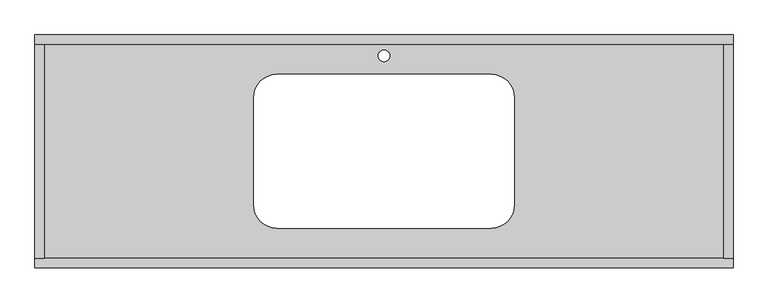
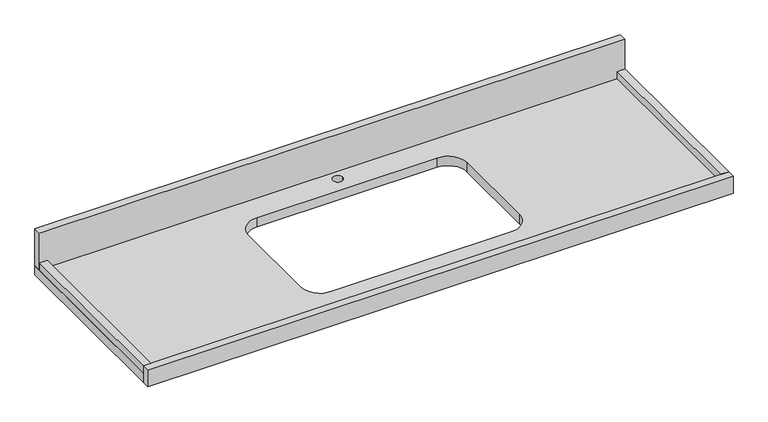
"""IFC4 building model written with IfcOpenShell, lengths in millimetres: furniture geometry, F05943_ES_Encimera-Cocina.2019 : Blanco Siena."""

from ifc_helpers import new_model, si_unit, point, frame, frame_2d, origin, place, context, project, spatial, polyline, circle_curve, trimmed, segment, composite_curve, outline, extrude, source, transform, mapped, element, save


def furniture_18eae17e(model_context):
    return source(origin(), model_context, "Body", "SweptSolid", [
        extrude(outline(polyline([(-750.0, 300.0), (750.0, 300.0), (750.0, -180.0), (-750.0, -180.0), (-750.0, 300.0)]), holes=[composite_curve([segment(polyline([(-230.0, -115.0), (230.0, -115.0)]), True, "CONTINUOUS"), segment(trimmed(circle_curve(frame_2d((230.0, -65.0)), 50.0), [point((230.0, -115.0))], [point((280.0, -65.0))], True, "CARTESIAN"), True, "CONTINUOUS"), segment(polyline([(280.0, -65.0), (280.0, 165.0)]), True, "CONTINUOUS"), segment(trimmed(circle_curve(frame_2d((230.0, 165.0)), 50.0), [point((280.0, 165.0))], [point((230.0, 215.0))], True, "CARTESIAN"), True, "CONTINUOUS"), segment(polyline([(230.0, 215.0), (-230.0, 215.0)]), True, "CONTINUOUS"), segment(trimmed(circle_curve(frame_2d((-230.0, 165.0)), 50.0), [point((-230.0, 215.0))], [point((-280.0, 165.0))], True, "CARTESIAN"), True, "CONTINUOUS"), segment(polyline([(-280.0, 165.0), (-280.0, -65.0)]), True, "CONTINUOUS"), segment(trimmed(circle_curve(frame_2d((-230.0, -65.0)), 50.0), [point((-280.0, -65.0))], [point((-230.0, -115.0))], True, "CARTESIAN"), True, "CONTINUOUS")], self_intersect=False), composite_curve([segment(trimmed(circle_curve(frame_2d((0.0, 255.0)), 12.5), [point((-12.5, 255.0))], [point((12.5, 255.0))], True, "CARTESIAN"), True, "CONTINUOUS"), segment(trimmed(circle_curve(frame_2d((0.0, 255.0)), 12.5), [point((12.5, 255.0))], [point((-12.5, 255.0))], True, "CARTESIAN"), True, "CONTINUOUS")], self_intersect=False)]), frame((0.0, 0.0, 775.0), z_axis=(0.0, 0.0, 1.0), x_axis=(1.0, 0.0, 0.0)), (0.0, 0.0, 1.0), 25.0),
        extrude(outline(polyline([(750.0, 300.0), (750.0, 280.0), (-750.0, 280.0), (-750.0, 300.0), (750.0, 300.0)])), frame((0.0, 0.0, 800.0), z_axis=(0.0, 0.0, 1.0), x_axis=(1.0, 0.0, 0.0)), (0.0, 0.0, 1.0), 100.0),
        extrude(outline(polyline([(-750.0, 280.0), (-730.0, 280.0), (-730.0, -180.0), (-750.0, -180.0), (-750.0, 280.0)])), frame((0.0, 0.0, 800.0), z_axis=(0.0, 0.0, 1.0), x_axis=(1.0, 0.0, 0.0)), (0.0, 0.0, 1.0), 20.0),
        extrude(outline(polyline([(750.0, 280.0), (750.0, -180.0), (730.0, -180.0), (730.0, 280.0), (750.0, 280.0)])), frame((0.0, 0.0, 800.0), z_axis=(0.0, 0.0, 1.0), x_axis=(1.0, 0.0, 0.0)), (0.0, 0.0, 1.0), 20.0),
        extrude(outline(polyline([(750.0, -200.0), (-750.0, -200.0), (-750.0, -180.0), (750.0, -180.0), (750.0, -200.0)])), frame((0.0, 0.0, 775.0), z_axis=(0.0, 0.0, 1.0), x_axis=(1.0, 0.0, 0.0)), (0.0, 0.0, 1.0), 45.0),
    ])


if __name__ == "__main__":
    model = new_model("IFC4")
    model_context = context("Model", 3, world=origin())
    ifc_project = project(units=[si_unit("LENGTHUNIT", "METRE", prefix="MILLI")], contexts=[model_context])
    site = spatial("IfcSite", under=ifc_project)
    building = spatial("IfcBuilding", under=site)
    placement = place(None, origin())
    furniture_shape = furniture_18eae17e(model_context)
    element("IfcFurniture", 1, ObjectType="F05943_ES_Encimera-Cocina.2019 : Blanco Siena", at=placement, inside=building, context=model_context, shape_type="MappedRepresentation", body=[
        mapped(furniture_shape, transform((0.0, 0.0, 0.0), x_axis=(1.0, 0.0, 0.0), y_axis=(0.0, 1.0, 0.0), z_axis=(0.0, 0.0, 1.0))),
    ])
    save(model, "model.ifc")
